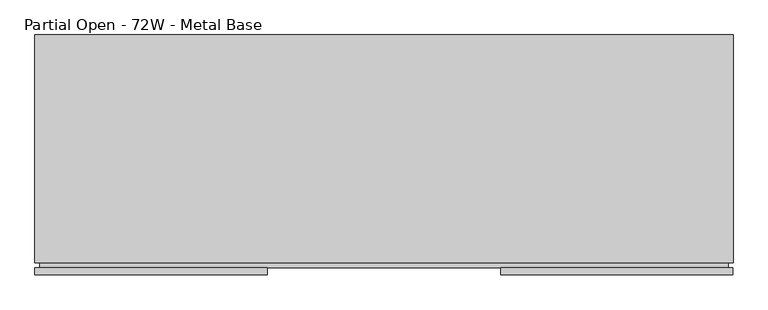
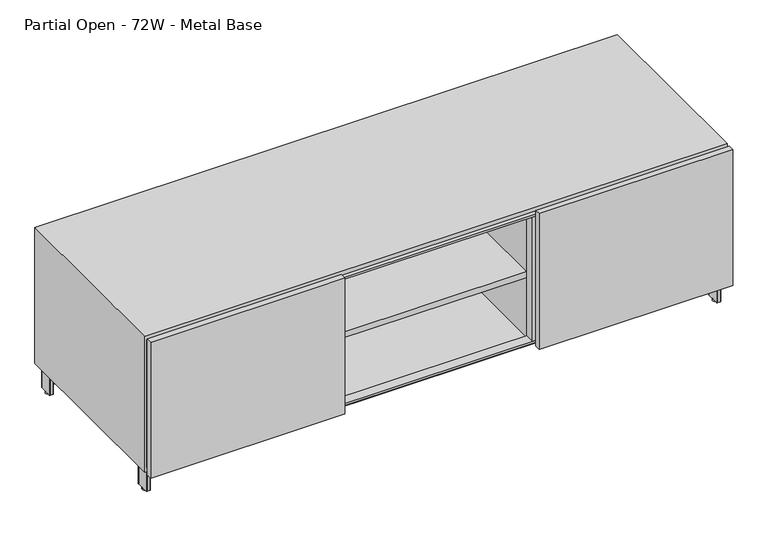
"""IFC4 building model written with IfcOpenShell, lengths in millimetres: furniture geometry, Steelcase Coalesse - Exponents - Storage - Credenza - 21H : Partial Open - 72W - Metal Base."""

from ifc_helpers import new_model, si_unit, point, frame, frame_2d, origin, origin_with_axes, place, context, project, spatial, polyline, circle_curve, trimmed, segment, composite_curve, outline, extrude, faceted_brep, source, transform, mapped, element, save


def partial_open_72w_metal_base_1c88f058(model_context):
    return source(origin(), model_context, "Body", "SolidModel", [
        faceted_brep([(6.35, 31.75, 520.7), (6.35, 31.75, 95.25), (6.35, 622.3, 95.25), (6.35, 622.3, 520.7), (1822.45, 622.3, 95.25), (1822.45, 622.3, 520.7), (1822.45, 31.75, 95.25), (1822.45, 31.75, 520.7), (0.0, 31.75, 82.55), (1828.8, 31.75, 82.55), (1828.8, 31.75, 533.4), (0.0, 31.75, 533.4), (1828.8, 628.65, 82.55), (1828.8, 628.65, 533.4), (0.0, 628.65, 82.55), (0.0, 628.65, 533.4)], [[[0, 1, 2, 3]], [[3, 2, 4, 5]], [[5, 4, 6, 7]], [[8, 9, 10, 11], [7, 6, 1, 0]], [[10, 9, 12, 13]], [[13, 12, 14, 15]], [[15, 14, 8, 11]], [[7, 0, 3, 5]], [[10, 13, 15, 11]], [[1, 6, 4, 2]], [[12, 9, 8, 14]]]),
        extrude(outline(composite_curve([segment(polyline([(1805.1506426, 615.95), (1814.322, 615.95)]), True, "CONTINUOUS"), segment(trimmed(circle_curve(frame_2d((1814.322, 614.172)), 1.778), [point((1814.322, 615.95))], [point((1816.1, 614.172))], False, "CARTESIAN"), True, "CONTINUOUS"), segment(polyline([(1816.1, 614.172), (1816.1, 572.9986)]), True, "CONTINUOUS"), segment(trimmed(circle_curve(frame_2d((1814.322, 572.9986)), 1.778), [point((1816.1, 572.9986))], [point((1814.322, 571.2206))], False, "CARTESIAN"), True, "CONTINUOUS"), segment(polyline([(1814.322, 571.2206), (1805.1948916, 571.2206)]), True, "CONTINUOUS"), segment(trimmed(circle_curve(frame_2d((1805.1948916, 573.0154916)), 1.7948916), [point((1805.1948916, 571.2206))], [point((1803.4, 573.0154916))], False, "CARTESIAN"), True, "CONTINUOUS"), segment(polyline([(1803.4, 573.0154916), (1803.4, 614.1993574)]), True, "CONTINUOUS"), segment(trimmed(circle_curve(frame_2d((1805.1506426, 614.1993574)), 1.7506426), [point((1803.4, 614.1993574))], [point((1805.1506426, 615.95))], False, "CARTESIAN"), True, "CONTINUOUS")], self_intersect=False)), frame((0.0, 0.0, 6.35), z_axis=(0.0, 0.0, 1.0), x_axis=(1.0, 0.0, 0.0)), (0.0, 0.0, 1.0), 73.4568),
        extrude(outline(composite_curve([segment(polyline([(1805.1506426, 88.9), (1814.322, 88.9)]), True, "CONTINUOUS"), segment(trimmed(circle_curve(frame_2d((1814.322, 87.122)), 1.778), [point((1814.322, 88.9))], [point((1816.1, 87.122))], False, "CARTESIAN"), True, "CONTINUOUS"), segment(polyline([(1816.1, 87.122), (1816.1, 45.9486)]), True, "CONTINUOUS"), segment(trimmed(circle_curve(frame_2d((1814.322, 45.9486)), 1.778), [point((1816.1, 45.9486))], [point((1814.322, 44.1706))], False, "CARTESIAN"), True, "CONTINUOUS"), segment(polyline([(1814.322, 44.1706), (1805.1948916, 44.1706)]), True, "CONTINUOUS"), segment(trimmed(circle_curve(frame_2d((1805.1948916, 45.9654916)), 1.7948916), [point((1805.1948916, 44.1706))], [point((1803.4, 45.9654916))], False, "CARTESIAN"), True, "CONTINUOUS"), segment(polyline([(1803.4, 45.9654916), (1803.4, 87.1493574)]), True, "CONTINUOUS"), segment(trimmed(circle_curve(frame_2d((1805.1506426, 87.1493574)), 1.7506426), [point((1803.4, 87.1493574))], [point((1805.1506426, 88.9))], False, "CARTESIAN"), True, "CONTINUOUS")], self_intersect=False)), frame((0.0, 0.0, 6.35), z_axis=(0.0, 0.0, 1.0), x_axis=(1.0, 0.0, 0.0)), (0.0, 0.0, 1.0), 73.4568),
        extrude(outline(composite_curve([segment(trimmed(circle_curve(frame_2d((1809.75, 593.5667033)), 6.35), [point((1809.75, 599.9167033))], [point((1809.75, 587.2167033))], False, "CARTESIAN"), True, "CONTINUOUS"), segment(trimmed(circle_curve(frame_2d((1809.75, 593.5667033)), 6.35), [point((1809.75, 587.2167033))], [point((1809.75, 599.9167033))], False, "CARTESIAN"), True, "CONTINUOUS")], self_intersect=False)), origin_with_axes(), (0.0, 0.0, 1.0), 6.35),
        extrude(outline(composite_curve([segment(trimmed(circle_curve(frame_2d((1809.75, 66.7867854)), 6.35), [point((1809.75, 73.1367854))], [point((1809.75, 60.4367854))], False, "CARTESIAN"), True, "CONTINUOUS"), segment(trimmed(circle_curve(frame_2d((1809.75, 66.7867854)), 6.35), [point((1809.75, 60.4367854))], [point((1809.75, 73.1367854))], False, "CARTESIAN"), True, "CONTINUOUS")], self_intersect=False)), origin_with_axes(), (0.0, 0.0, 1.0), 6.35),
        extrude(outline(polyline([(1270.0, 379.0696809), (1270.0, 277.4696809), (1168.4, 277.4696809), (1168.4, 379.0696809), (1270.0, 379.0696809)])), frame((0.0, 0.0, 79.8068), z_axis=(0.0, 0.0, 1.0), x_axis=(1.0, 0.0, 0.0)), (0.0, 0.0, 1.0), 2.7432),
        extrude(outline(polyline([(520.7, 1816.1), (520.7, 12.7), (95.25, 12.7), (95.25, 1816.1), (520.7, 1816.1)]), holes=[polyline([(514.35, 1809.75), (101.6, 1809.75), (101.6, 19.05), (514.35, 19.05), (514.35, 1809.75)])]), frame((0.0, 19.05, 0.0), z_axis=(0.0, 1.0, 0.0), x_axis=(0.0, 0.0, 1.0)), (0.0, 0.0, 1.0), 31.75),
        extrude(outline(composite_curve([segment(polyline([(1211.4256426, 349.25), (1226.947, 349.25)]), True, "CONTINUOUS"), segment(trimmed(circle_curve(frame_2d((1226.947, 347.472)), 1.778), [point((1226.947, 349.25))], [point((1228.725, 347.472))], False, "CARTESIAN"), True, "CONTINUOUS"), segment(polyline([(1228.725, 347.472), (1228.725, 312.928)]), True, "CONTINUOUS"), segment(trimmed(circle_curve(frame_2d((1226.947, 312.928)), 1.778), [point((1228.725, 312.928))], [point((1226.947, 311.15))], False, "CARTESIAN"), True, "CONTINUOUS"), segment(polyline([(1226.947, 311.15), (1211.4698916, 311.15)]), True, "CONTINUOUS"), segment(trimmed(circle_curve(frame_2d((1211.4698916, 312.9448916)), 1.7948916), [point((1211.4698916, 311.15))], [point((1209.675, 312.9448916))], False, "CARTESIAN"), True, "CONTINUOUS"), segment(polyline([(1209.675, 312.9448916), (1209.675, 347.4993574)]), True, "CONTINUOUS"), segment(trimmed(circle_curve(frame_2d((1211.4256426, 347.4993574)), 1.7506426), [point((1209.675, 347.4993574))], [point((1211.4256426, 349.25))], False, "CARTESIAN"), True, "CONTINUOUS")], self_intersect=False)), frame((0.0, 0.0, 6.35), z_axis=(0.0, 0.0, 1.0), x_axis=(1.0, 0.0, 0.0)), (0.0, 0.0, 1.0), 73.4568),
        extrude(outline(polyline([(1220.4800308, 345.280854), (1803.4, 598.591626), (1803.4, 577.8206777), (1233.5741031, 330.2), (1803.4, 82.5793223), (1803.4, 61.808374), (1220.777267, 314.9899805), (1227.2101738, 329.7934165), (1220.4800308, 345.280854)])), frame((0.0, 0.0, 34.925), z_axis=(0.0, 0.0, 1.0), x_axis=(1.0, 0.0, 0.0)), (0.0, 0.0, 1.0), 44.8818),
        extrude(outline(polyline([(1822.45, 520.7), (1720.85, 520.7), (1720.85, 622.3), (1822.45, 622.3), (1822.45, 520.7)])), frame((0.0, 0.0, 79.8068), z_axis=(0.0, 0.0, 1.0), x_axis=(1.0, 0.0, 0.0)), (0.0, 0.0, 1.0), 2.7432),
        extrude(outline(polyline([(1822.45, 139.7), (1822.45, 38.1), (1720.85, 38.1), (1720.85, 139.7), (1822.45, 139.7)])), frame((0.0, 0.0, 79.8068), z_axis=(0.0, 0.0, 1.0), x_axis=(1.0, 0.0, 0.0)), (0.0, 0.0, 1.0), 2.7432),
        extrude(outline(composite_curve([segment(trimmed(circle_curve(frame_2d((1219.0250692, 330.5590189)), 6.35), [point((1219.0250692, 336.9090189))], [point((1219.0250692, 324.2090189))], False, "CARTESIAN"), True, "CONTINUOUS"), segment(trimmed(circle_curve(frame_2d((1219.0250692, 330.5590189)), 6.35), [point((1219.0250692, 324.2090189))], [point((1219.0250692, 336.9090189))], False, "CARTESIAN"), True, "CONTINUOUS")], self_intersect=False)), origin_with_axes(), (0.0, 0.0, 1.0), 6.35),
        extrude(outline(polyline([(1827.8348, 19.05), (1827.8348, 0.0), (1220.0128, 0.0), (1220.0128, 19.05), (1827.8348, 19.05)])), frame((0.0, 0.0, 82.55), z_axis=(0.0, 0.0, 1.0), x_axis=(1.0, 0.0, 0.0)), (0.0, 0.0, 1.0), 450.85),
        extrude(outline(composite_curve([segment(trimmed(circle_curve(frame_2d((23.6493574, 614.1993574)), 1.7506426), [point((23.6493574, 615.95))], [point((25.4, 614.1993574))], False, "CARTESIAN"), True, "CONTINUOUS"), segment(polyline([(25.4, 614.1993574), (25.4, 573.0154916)]), True, "CONTINUOUS"), segment(trimmed(circle_curve(frame_2d((23.6051084, 573.0154916)), 1.7948916), [point((25.4, 573.0154916))], [point((23.6051084, 571.2206))], False, "CARTESIAN"), True, "CONTINUOUS"), segment(polyline([(23.6051084, 571.2206), (14.478, 571.2206)]), True, "CONTINUOUS"), segment(trimmed(circle_curve(frame_2d((14.478, 572.9986)), 1.778), [point((14.478, 571.2206))], [point((12.7, 572.9986))], False, "CARTESIAN"), True, "CONTINUOUS"), segment(polyline([(12.7, 572.9986), (12.7, 614.172)]), True, "CONTINUOUS"), segment(trimmed(circle_curve(frame_2d((14.478, 614.172)), 1.778), [point((12.7, 614.172))], [point((14.478, 615.95))], False, "CARTESIAN"), True, "CONTINUOUS"), segment(polyline([(14.478, 615.95), (23.6493574, 615.95)]), True, "CONTINUOUS")], self_intersect=False)), frame((0.0, 0.0, 6.35), z_axis=(0.0, 0.0, 1.0), x_axis=(1.0, 0.0, 0.0)), (0.0, 0.0, 1.0), 73.4568),
        extrude(outline(composite_curve([segment(trimmed(circle_curve(frame_2d((23.6493574, 87.1493574)), 1.7506426), [point((23.6493574, 88.9))], [point((25.4, 87.1493574))], False, "CARTESIAN"), True, "CONTINUOUS"), segment(polyline([(25.4, 87.1493574), (25.4, 45.9654916)]), True, "CONTINUOUS"), segment(trimmed(circle_curve(frame_2d((23.6051084, 45.9654916)), 1.7948916), [point((25.4, 45.9654916))], [point((23.6051084, 44.1706))], False, "CARTESIAN"), True, "CONTINUOUS"), segment(polyline([(23.6051084, 44.1706), (14.478, 44.1706)]), True, "CONTINUOUS"), segment(trimmed(circle_curve(frame_2d((14.478, 45.9486)), 1.778), [point((14.478, 44.1706))], [point((12.7, 45.9486))], False, "CARTESIAN"), True, "CONTINUOUS"), segment(polyline([(12.7, 45.9486), (12.7, 87.122)]), True, "CONTINUOUS"), segment(trimmed(circle_curve(frame_2d((14.478, 87.122)), 1.778), [point((12.7, 87.122))], [point((14.478, 88.9))], False, "CARTESIAN"), True, "CONTINUOUS"), segment(polyline([(14.478, 88.9), (23.6493574, 88.9)]), True, "CONTINUOUS")], self_intersect=False)), frame((0.0, 0.0, 6.35), z_axis=(0.0, 0.0, 1.0), x_axis=(1.0, 0.0, 0.0)), (0.0, 0.0, 1.0), 73.4568),
        extrude(outline(composite_curve([segment(trimmed(circle_curve(frame_2d((617.3743574, 347.4993574)), 1.7506426), [point((617.3743574, 349.25))], [point((619.125, 347.4993574))], False, "CARTESIAN"), True, "CONTINUOUS"), segment(polyline([(619.125, 347.4993574), (619.125, 312.9448916)]), True, "CONTINUOUS"), segment(trimmed(circle_curve(frame_2d((617.3301084, 312.9448916)), 1.7948916), [point((619.125, 312.9448916))], [point((617.3301084, 311.15))], False, "CARTESIAN"), True, "CONTINUOUS"), segment(polyline([(617.3301084, 311.15), (601.853, 311.15)]), True, "CONTINUOUS"), segment(trimmed(circle_curve(frame_2d((601.853, 312.928)), 1.778), [point((601.853, 311.15))], [point((600.075, 312.928))], False, "CARTESIAN"), True, "CONTINUOUS"), segment(polyline([(600.075, 312.928), (600.075, 347.472)]), True, "CONTINUOUS"), segment(trimmed(circle_curve(frame_2d((601.853, 347.472)), 1.778), [point((600.075, 347.472))], [point((601.853, 349.25))], False, "CARTESIAN"), True, "CONTINUOUS"), segment(polyline([(601.853, 349.25), (617.3743574, 349.25)]), True, "CONTINUOUS")], self_intersect=False)), frame((0.0, 0.0, 6.35), z_axis=(0.0, 0.0, 1.0), x_axis=(1.0, 0.0, 0.0)), (0.0, 0.0, 1.0), 73.4568),
        extrude(outline(polyline([(608.3199692, 345.280854), (601.5898262, 329.7934165), (608.022733, 314.9899805), (25.4, 61.808374), (25.4, 82.5793223), (595.2258969, 330.2), (25.4, 577.8206777), (25.4, 598.591626), (608.3199692, 345.280854)])), frame((0.0, 0.0, 34.925), z_axis=(0.0, 0.0, 1.0), x_axis=(1.0, 0.0, 0.0)), (0.0, 0.0, 1.0), 44.8818),
        extrude(outline(polyline([(6.35, 520.7), (6.35, 622.3), (107.95, 622.3), (107.95, 520.7), (6.35, 520.7)])), frame((0.0, 0.0, 79.8068), z_axis=(0.0, 0.0, 1.0), x_axis=(1.0, 0.0, 0.0)), (0.0, 0.0, 1.0), 2.7432),
        extrude(outline(polyline([(6.35, 139.7), (107.95, 139.7), (107.95, 38.1), (6.35, 38.1), (6.35, 139.7)])), frame((0.0, 0.0, 79.8068), z_axis=(0.0, 0.0, 1.0), x_axis=(1.0, 0.0, 0.0)), (0.0, 0.0, 1.0), 2.7432),
        extrude(outline(polyline([(558.8, 379.0696809), (660.4, 379.0696809), (660.4, 277.4696809), (558.8, 277.4696809), (558.8, 379.0696809)])), frame((0.0, 0.0, 79.8068), z_axis=(0.0, 0.0, 1.0), x_axis=(1.0, 0.0, 0.0)), (0.0, 0.0, 1.0), 2.7432),
        extrude(outline(polyline([(608.965, 19.05), (608.965, 0.0), (0.0, 0.0), (0.0, 19.05), (608.965, 19.05)])), frame((0.0, 0.0, 82.55), z_axis=(0.0, 0.0, 1.0), x_axis=(1.0, 0.0, 0.0)), (0.0, 0.0, 1.0), 450.85),
        extrude(outline(composite_curve([segment(trimmed(circle_curve(frame_2d((19.05, 593.5667033)), 6.35), [point((12.7, 593.5667033))], [point((25.4, 593.5667033))], False, "CARTESIAN"), True, "CONTINUOUS"), segment(trimmed(circle_curve(frame_2d((19.05, 593.5667033)), 6.35), [point((25.4, 593.5667033))], [point((12.7, 593.5667033))], False, "CARTESIAN"), True, "CONTINUOUS")], self_intersect=False)), origin_with_axes(), (0.0, 0.0, 1.0), 6.35),
        extrude(outline(composite_curve([segment(trimmed(circle_curve(frame_2d((19.05, 66.7867854)), 6.35), [point((12.7, 66.7867854))], [point((25.4, 66.7867854))], False, "CARTESIAN"), True, "CONTINUOUS"), segment(trimmed(circle_curve(frame_2d((19.05, 66.7867854)), 6.35), [point((25.4, 66.7867854))], [point((12.7, 66.7867854))], False, "CARTESIAN"), True, "CONTINUOUS")], self_intersect=False)), origin_with_axes(), (0.0, 0.0, 1.0), 6.35),
        extrude(outline(composite_curve([segment(trimmed(circle_curve(frame_2d((609.7749308, 330.5590189)), 6.35), [point((603.4249308, 330.5590189))], [point((616.1249308, 330.5590189))], False, "CARTESIAN"), True, "CONTINUOUS"), segment(trimmed(circle_curve(frame_2d((609.7749308, 330.5590189)), 6.35), [point((616.1249308, 330.5590189))], [point((603.4249308, 330.5590189))], False, "CARTESIAN"), True, "CONTINUOUS")], self_intersect=False)), origin_with_axes(), (0.0, 0.0, 1.0), 6.35),
        extrude(outline(polyline([(0.0, -19.05), (0.0, 0.0), (31.75, 0.0), (31.75, -19.05), (0.0, -19.05)])), frame((1209.675, 19.05, 101.6), z_axis=(3.1477043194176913e-12, 0.0, 1.0), x_axis=(0.0, 1.0, 0.0)), (0.0, 0.0, 1.0), 412.75),
        extrude(outline(polyline([(0.0, -19.05), (0.0, 0.0), (31.75, 0.0), (31.75, -19.05), (0.0, -19.05)])), frame((590.55, 19.05, 101.6), z_axis=(3.3608671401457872e-12, 0.0, 1.0), x_axis=(0.0, 1.0, 0.0)), (0.0, 0.0, 1.0), 412.75),
        extrude(outline(polyline([(1209.675, 609.6), (1228.725, 609.6), (1228.725, 50.8), (1209.675, 50.8), (1209.675, 609.6)])), frame((0.0, 0.0, 95.25), z_axis=(0.0, 0.0, 1.0), x_axis=(1.0, 0.0, 0.0)), (0.0, 0.0, 1.0), 425.45),
        extrude(outline(polyline([(1209.675, 50.8), (609.6, 50.8), (609.6, 609.6), (1209.675, 609.6), (1209.675, 50.8)])), frame((0.0, 0.0, 295.275), z_axis=(0.0, 0.0, 1.0), x_axis=(1.0, 0.0, 0.0)), (0.0, 0.0, 1.0), 19.05),
        extrude(outline(polyline([(590.55, 609.6), (609.6, 609.6), (609.6, 50.8), (590.55, 50.8), (590.55, 609.6)])), frame((0.0, 0.0, 95.25), z_axis=(0.0, 0.0, 1.0), x_axis=(1.0, 0.0, 0.0)), (0.0, 0.0, 1.0), 425.45),
    ])


if __name__ == "__main__":
    model = new_model("IFC4")
    model_context = context("Model", 3, world=origin())
    ifc_project = project(units=[si_unit("LENGTHUNIT", "METRE", prefix="MILLI")], contexts=[model_context])
    site = spatial("IfcSite", under=ifc_project)
    building = spatial("IfcBuilding", under=site)
    placement = place(None, origin())
    partial_open_72w_metal_base_shape = partial_open_72w_metal_base_1c88f058(model_context)
    element("IfcFurniture", 1, ObjectType="Steelcase Coalesse - Exponents - Storage - Credenza - 21H : Partial Open - 72W - Metal Base", at=placement, inside=building, context=model_context, shape_type="MappedRepresentation", body=[
        mapped(partial_open_72w_metal_base_shape, transform((0.0, 0.0, 0.0), x_axis=(1.0, 0.0, 0.0), y_axis=(0.0, 1.0, 0.0), z_axis=(0.0, 0.0, 1.0))),
    ])
    save(model, "model.ifc")
